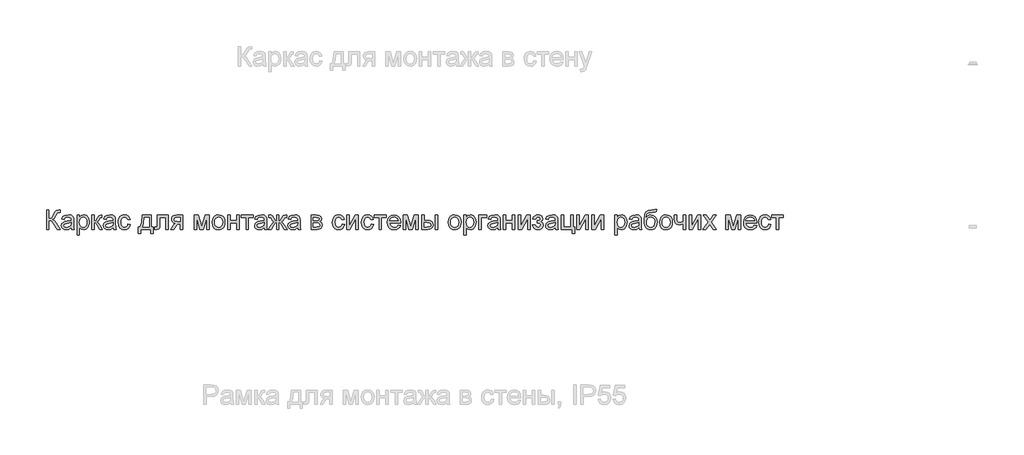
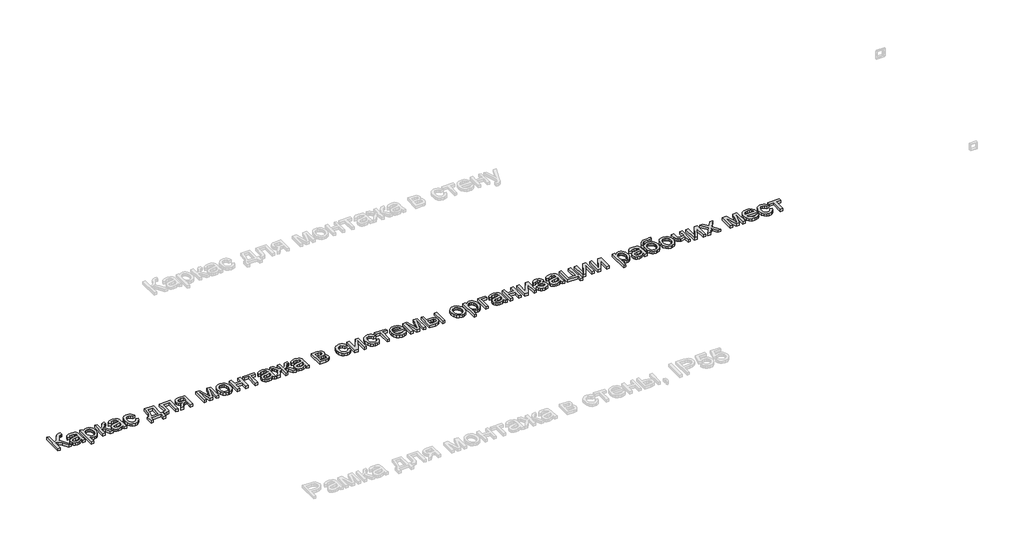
# One storey, part 45 of 48: 1 proxy.
"""IFC4 building model written with IfcOpenShell, lengths in millimetres."""

from ifc_helpers import new_model, si_unit, origin, origin_with_axes, place, context, project, spatial, polyline, outline, extrude, element, save

model = new_model("IFC4")

# Units and contexts
model_context = context("Model", 3, world=origin())
ifc_project = project(units=[si_unit("LENGTHUNIT", "METRE", prefix="MILLI")], contexts=[model_context])

# Site, building, storey
site = spatial("IfcSite", under=ifc_project)
building = spatial("IfcBuilding", under=site)
storey = spatial("IfcBuildingStorey", under=building, Name="Этаж 01", Elevation=0.0)

# Proxy
placement = place(None, origin())
element("IfcBuildingElementProxy", 1, Name="150 мм Arial", ObjectType="150 мм Arial", at=placement, inside=storey, context=model_context, shape_type="SweptSolid", body=[
    extrude(outline(polyline([(70154.3970771, 1543.5795669), (70173.2326353, 1543.5795669), (70173.2326353, 1477.6551134), (70185.9843449, 1478.9013136), (70194.2938795, 1482.6399144), (70208.9907652, 1507.8582252), (70219.3834316, 1528.9194694), (70231.1556554, 1539.348924), (70247.9862567, 1543.5795669), (70260.3470917, 1543.3588377), (70260.3470917, 1524.5232796), (70256.1900252, 1524.6336442), (70252.0329587, 1524.7440088), (70237.3176788, 1520.2190602), (70226.1340662, 1500.8316791), (70212.7983439, 1477.213655), (70199.7937153, 1469.4145567), (70214.3342512, 1460.8980885), (70228.672452, 1443.1477822), (70260.3470917, 1392.8951017), (70238.4949012, 1392.8951017), (70211.713092, 1435.3486839), (70192.8591397, 1457.5135742), (70184.154132, 1462.0247271), (70173.2326353, 1463.5284448), (70173.2326353, 1392.8951017), (70154.3970771, 1392.8951017), (70154.3970771, 1543.5795669)])), origin_with_axes(), (0.0, 0.0, 1.0), 20.0),
    extrude(outline(polyline([(70345.1071034, 1407.0217703), (70326.8417624, 1394.2562651), (70306.6634349, 1390.5406569), (70290.9226841, 1392.77554), (70279.3114086, 1399.4801894), (70272.1515053, 1409.6613236), (70269.7648708, 1422.3256613), (70273.3701144, 1437.2248821), (70282.8430758, 1448.0406128), (70296.0316453, 1454.2210303), (70312.3288177, 1457.0537217), (70344.9967388, 1463.5284448), (70345.1071034, 1467.7222995), (70343.8103194, 1476.1284031), (70339.9199673, 1481.6282389), (70331.2195581, 1485.7117291), (70319.0978464, 1487.0728925), (70300.041559, 1483.4492548), (70290.9548737, 1470.5917791), (70272.1193156, 1472.9462238), (70280.2679018, 1491.3403236), (70296.6754388, 1502.1192661), (70321.5258675, 1505.9084506), (70344.3529453, 1502.5607245), (70357.2472093, 1494.1546209), (70363.0229566, 1481.3707215), (70363.9426616, 1464.8896082), (70363.9426616, 1441.4555251), (70364.8991548, 1408.7324216), (70368.6515511, 1392.8951017), (70349.815993, 1392.8951017), (70345.1071034, 1407.0217703)]), holes=[polyline([(70345.1071034, 1444.6928866), (70314.7200506, 1438.9171393), (70298.5148487, 1435.8637187), (70291.1756029, 1430.8973118), (70288.600429, 1423.6500365), (70294.2106294, 1413.4597052), (70310.6733487, 1409.3762151), (70329.729636, 1413.8827695), (70342.0168947, 1424.7904707), (70344.9967388, 1439.3585977), (70345.1071034, 1444.6928866)])]), origin_with_axes(), (0.0, 0.0, 1.0), 20.0),
    extrude(outline(polyline([(70389.841554, 1350.5150959), (70389.841554, 1503.5540058), (70408.6771122, 1503.5540058), (70408.6771122, 1485.0863297), (70421.7001348, 1500.7029204), (70439.2848942, 1505.9084506), (70452.0228083, 1504.0874347), (70463.1604357, 1498.6243871), (70472.2287269, 1489.8504015), (70478.7586323, 1478.0965718), (70484.0193448, 1449.0706824), (70482.5340213, 1432.9620495), (70478.0780506, 1418.5548709), (70470.7939871, 1406.5803119), (70460.824385, 1397.7695381), (70449.2131095, 1392.3478772), (70437.0040258, 1390.5406569), (70420.6148829, 1395.3783052), (70408.6771122, 1407.6103815), (70408.6771122, 1350.5150959), (70389.841554, 1350.5150959)]), holes=[polyline([(70408.6771122, 1447.341637), (70410.7142588, 1430.4558534), (70416.8256984, 1418.6468414), (70425.8434058, 1411.6938717), (70436.5993556, 1409.3762151), (70447.5300494, 1411.7766451), (70456.7776831, 1418.9779352), (70463.0822608, 1431.2192085), (70465.1837867, 1448.7395886), (70463.1328445, 1465.5334016), (70456.9800182, 1477.5079606), (70447.9761063, 1484.6816595), (70437.3719078, 1487.0728925), (70426.7263226, 1484.5299082), (70417.3775214, 1476.9009553), (70410.8522145, 1464.4251571), (70408.6771122, 1447.341637)])]), origin_with_axes(), (0.0, 0.0, 1.0), 20.0),
    extrude(outline(polyline([(70505.2093477, 1503.5540058), (70524.0449059, 1503.5540058), (70524.0449059, 1456.4651105), (70536.6632583, 1459.8496248), (70547.0007424, 1479.5680998), (70555.590787, 1496.582642), (70563.1691561, 1502.1192661), (70576.9463368, 1503.5540058), (70580.5515803, 1503.5540058), (70580.5515803, 1484.6080831), (70575.4748088, 1484.7184477), (70566.2777589, 1482.7318849), (70559.8030358, 1470.3342617), (70552.2062726, 1456.924963), (70541.5560889, 1450.3582693), (70553.4386773, 1443.0282206), (70565.1005366, 1427.5863738), (70585.2604699, 1392.8951017), (70563.8497378, 1392.8951017), (70544.0944746, 1426.8506099), (70534.1616608, 1441.2164018), (70524.0449059, 1444.6928866), (70524.0449059, 1392.8951017), (70505.2093477, 1392.8951017), (70505.2093477, 1503.5540058)])), origin_with_axes(), (0.0, 0.0, 1.0), 20.0),
    extrude(outline(polyline([(70667.6660368, 1407.0217703), (70649.4006957, 1394.2562651), (70629.2223683, 1390.5406569), (70613.4816174, 1392.77554), (70601.870342, 1399.4801894), (70594.7104386, 1409.6613236), (70592.3238042, 1422.3256613), (70595.9290477, 1437.2248821), (70605.4020091, 1448.0406128), (70618.5905786, 1454.2210303), (70634.887751, 1457.0537217), (70667.5556722, 1463.5284448), (70667.6660368, 1467.7222995), (70666.3692528, 1476.1284031), (70662.4789007, 1481.6282389), (70653.7784915, 1485.7117291), (70641.6567797, 1487.0728925), (70622.6004924, 1483.4492548), (70613.5138071, 1470.5917791), (70594.678249, 1472.9462238), (70602.8268352, 1491.3403236), (70619.2343721, 1502.1192661), (70644.0848009, 1505.9084506), (70666.9118787, 1502.5607245), (70679.8061426, 1494.1546209), (70685.58189, 1481.3707215), (70686.501595, 1464.8896082), (70686.501595, 1441.4555251), (70687.4580881, 1408.7324216), (70691.2104845, 1392.8951017), (70672.3749263, 1392.8951017), (70667.6660368, 1407.0217703)]), holes=[polyline([(70667.6660368, 1444.6928866), (70637.278984, 1438.9171393), (70621.0737821, 1435.8637187), (70613.7345363, 1430.8973118), (70611.1593623, 1423.6500365), (70616.7695628, 1413.4597052), (70633.2322821, 1409.3762151), (70652.2885694, 1413.8827695), (70664.575828, 1424.7904707), (70667.5556722, 1439.3585977), (70667.6660368, 1444.6928866)])]), origin_with_axes(), (0.0, 0.0, 1.0), 20.0),
    extrude(outline(polyline([(70783.0338305, 1432.9206628), (70801.8693886, 1430.566218), (70796.6178732, 1413.8137916), (70786.7494386, 1401.1540525), (70773.1929871, 1393.1940058), (70756.8774206, 1390.5406569), (70736.8416475, 1394.2424695), (70721.174473, 1405.3479072), (70711.0623167, 1423.3695265), (70707.6915979, 1447.8198836), (70709.1309362, 1464.581507), (70713.4489511, 1479.1082473), (70720.7146205, 1490.8390844), (70730.9969223, 1499.2129983), (70743.2979765, 1504.2345875), (70756.6199032, 1505.9084506), (70772.5353981, 1503.6091881), (70785.2595166, 1496.7114007), (70794.3875886, 1485.5829704), (70799.5149439, 1470.5917791), (70780.6793857, 1468.2373343), (70771.9421883, 1482.3456088), (70756.767056, 1487.0728925), (70744.5947605, 1484.7460388), (70734.9332596, 1477.765478), (70728.6286819, 1465.7541308), (70726.527156, 1448.3349184), (70728.5826967, 1430.6811811), (70734.7493186, 1418.6284473), (70744.2360756, 1411.6892731), (70756.2520212, 1409.3762151), (70766.0054926, 1410.8201519), (70774.0023275, 1415.1519624), (70779.8194616, 1422.4820112), (70783.0338305, 1432.9206628)])), origin_with_axes(), (0.0, 0.0, 1.0), 20.0),
    extrude(outline(polyline([(70893.6927346, 1503.5540058), (70964.3260777, 1503.5540058), (70964.3260777, 1411.7306599), (70978.4527463, 1411.7306599), (70978.4527463, 1362.2873197), (70959.6171882, 1362.2873197), (70959.6171882, 1392.8951017), (70881.9205108, 1392.8951017), (70881.9205108, 1362.2873197), (70863.0849526, 1362.2873197), (70863.0849526, 1411.7306599), (70874.8571765, 1411.7306599), (70883.4150314, 1427.1954992), (70889.4069094, 1447.6543367), (70893.6927346, 1503.5540058)]), holes=[polyline([(70910.173848, 1484.7184477), (70905.7592641, 1441.805013), (70896.0471794, 1411.7306599), (70945.4905196, 1411.7306599), (70945.4905196, 1484.7184477), (70910.173848, 1484.7184477)])]), origin_with_axes(), (0.0, 0.0, 1.0), 20.0),
    extrude(outline(polyline([(71009.0605283, 1503.5540058), (71093.82054, 1503.5540058), (71093.82054, 1393.0054663), (71074.9849819, 1393.0054663), (71074.9849819, 1484.7184477), (71027.8960865, 1484.7184477), (71027.8960865, 1431.9273814), (71026.6268936, 1407.5735933), (71019.6555298, 1397.2912915), (71003.1744164, 1392.8951017), (70987.8705254, 1393.8515949), (70987.8705254, 1411.7306599), (70996.2950231, 1411.7306599), (71004.8114913, 1412.8894881), (71008.2143997, 1416.5683081), (71009.0605283, 1432.9942392), (71009.0605283, 1503.5540058)])), origin_with_axes(), (0.0, 0.0, 1.0), 20.0),
    extrude(outline(polyline([(71206.8338889, 1503.5540058), (71206.8338889, 1392.8951017), (71187.9983308, 1392.8951017), (71187.9983308, 1435.2751075), (71177.7344231, 1435.2751075), (71163.7549073, 1432.8838746), (71150.6215201, 1416.8074314), (71135.6119347, 1392.8951017), (71113.8333206, 1392.8951017), (71132.7424551, 1423.1350017), (71141.0933764, 1433.9875206), (71148.7821101, 1438.8067747), (71135.9062403, 1442.7523091), (71126.8563432, 1450.2479047), (71121.5036602, 1460.2175068), (71119.7194325, 1471.5850605), (71122.1566507, 1484.4793244), (71129.4683054, 1494.6880498), (71141.396879, 1501.3375168), (71157.6848544, 1503.5540058), (71206.8338889, 1503.5540058)]), holes=[polyline([(71187.9983308, 1484.7184477), (71163.1662961, 1484.7184477), (71150.3410101, 1483.6285973), (71143.0615451, 1480.3590461), (71138.5549906, 1470.1503207), (71140.2150581, 1462.9720233), (71145.1952606, 1457.9918207), (71168.7213142, 1454.1106657), (71187.9983308, 1454.1106657), (71187.9983308, 1484.7184477)])]), origin_with_axes(), (0.0, 0.0, 1.0), 20.0),
    extrude(outline(polyline([(71293.9483454, 1503.5540058), (71326.3587492, 1503.5540058), (71351.3379366, 1414.9680214), (71378.2668987, 1503.5540058), (71409.3161391, 1503.5540058), (71409.3161391, 1392.8951017), (71390.4805809, 1392.8951017), (71390.4805809, 1481.9961209), (71363.4044661, 1392.8951017), (71338.682796, 1392.8951017), (71312.7839035, 1486.2635521), (71312.7839035, 1392.8951017), (71293.9483454, 1392.8951017), (71293.9483454, 1503.5540058)])), origin_with_axes(), (0.0, 0.0, 1.0), 20.0),
    extrude(outline(polyline([(71432.8605868, 1448.2245538), (71436.9348799, 1474.9051955), (71449.1577592, 1493.6579802), (71464.2593151, 1502.845833), (71482.3407151, 1505.9084506), (71502.1281679, 1502.1790469), (71517.9332982, 1490.9908357), (71528.2937748, 1473.2267339), (71531.7472671, 1449.7696582), (71530.2205568, 1430.740962), (71525.640426, 1416.2556084), (71518.1402318, 1405.4076881), (71507.8533315, 1397.2912915), (71495.6350507, 1392.2283156), (71482.3407151, 1390.5406569), (71462.314139, 1394.2562651), (71446.5274029, 1405.4030895), (71436.2772908, 1423.5396719), (71432.8605868, 1448.2245538)]), holes=[polyline([(71451.6961449, 1448.261342), (71453.8758457, 1431.21461), (71460.4149482, 1419.0699057), (71470.2557916, 1411.7996377), (71482.3407151, 1409.3762151), (71494.3704564, 1411.8134333), (71504.1929056, 1419.125088), (71510.7320081, 1431.4307407), (71512.9117089, 1448.8499532), (71510.7182125, 1465.4000444), (71504.1377233, 1477.3792019), (71494.3014785, 1484.6494698), (71482.3407151, 1487.0728925), (71470.2557916, 1484.6586669), (71460.4149482, 1477.4159901), (71453.8758457, 1465.2988769), (71451.6961449, 1448.261342)])]), origin_with_axes(), (0.0, 0.0, 1.0), 20.0),
    extrude(outline(polyline([(71552.93727, 1503.5540058), (71571.7728282, 1503.5540058), (71571.7728282, 1461.174), (71621.2161683, 1461.174), (71621.2161683, 1503.5540058), (71640.0517265, 1503.5540058), (71640.0517265, 1392.8951017), (71621.2161683, 1392.8951017), (71621.2161683, 1442.3384418), (71571.7728282, 1442.3384418), (71571.7728282, 1392.8951017), (71552.93727, 1392.8951017), (71552.93727, 1503.5540058)])), origin_with_axes(), (0.0, 0.0, 1.0), 20.0),
    extrude(outline(polyline([(71658.8872846, 1503.5540058), (71748.3561858, 1503.5540058), (71748.3561858, 1484.7184477), (71713.0395143, 1484.7184477), (71713.0395143, 1392.8951017), (71694.2039561, 1392.8951017), (71694.2039561, 1484.7184477), (71658.8872846, 1484.7184477), (71658.8872846, 1503.5540058)])), origin_with_axes(), (0.0, 0.0, 1.0), 20.0),
    extrude(outline(polyline([(71835.4706423, 1407.0217703), (71817.2053012, 1394.2562651), (71797.0269738, 1390.5406569), (71781.2862229, 1392.77554), (71769.6749475, 1399.4801894), (71762.5150441, 1409.6613236), (71760.1284097, 1422.3256613), (71763.7336532, 1437.2248821), (71773.2066146, 1448.0406128), (71786.3951841, 1454.2210303), (71802.6923565, 1457.0537217), (71835.3602777, 1463.5284448), (71835.4706423, 1467.7222995), (71834.1738583, 1476.1284031), (71830.2835062, 1481.6282389), (71821.583097, 1485.7117291), (71809.4613852, 1487.0728925), (71790.4050979, 1483.4492548), (71781.3184126, 1470.5917791), (71762.4828545, 1472.9462238), (71770.6314406, 1491.3403236), (71787.0389776, 1502.1192661), (71811.8894064, 1505.9084506), (71834.7164842, 1502.5607245), (71847.6107481, 1494.1546209), (71853.3864955, 1481.3707215), (71854.3062004, 1464.8896082), (71854.3062004, 1441.4555251), (71855.2626936, 1408.7324216), (71859.01509, 1392.8951017), (71840.1795318, 1392.8951017), (71835.4706423, 1407.0217703)]), holes=[polyline([(71835.4706423, 1444.6928866), (71805.0835895, 1438.9171393), (71788.8783876, 1435.8637187), (71781.5391418, 1430.8973118), (71778.9639678, 1423.6500365), (71784.5741683, 1413.4597052), (71801.0368875, 1409.3762151), (71820.0931749, 1413.8827695), (71832.3804335, 1424.7904707), (71835.3602777, 1439.3585977), (71835.4706423, 1444.6928866)])]), origin_with_axes(), (0.0, 0.0, 1.0), 20.0),
    extrude(outline(polyline([(71948.4839912, 1503.5540058), (71948.4839912, 1456.4651105), (71959.4652688, 1460.3462655), (71969.8579351, 1480.4878047), (71982.2555584, 1499.8016095), (71999.8771059, 1503.5540058), (72007.3451104, 1503.5540058), (72007.3451104, 1484.6080831), (72002.1579743, 1484.7184477), (71992.4458896, 1482.7686731), (71985.7136491, 1470.5549909), (71977.8961567, 1457.1640863), (71966.7309382, 1450.3582693), (71979.045788, 1443.0282206), (71991.0479381, 1427.5863738), (72012.054, 1392.8951017), (71990.4593269, 1392.8951017), (71969.7843587, 1427.1081272), (71959.2445396, 1441.3267664), (71948.4839912, 1444.6928866), (71948.4839912, 1392.8951017), (71929.6484331, 1392.8951017), (71929.6484331, 1444.6928866), (71918.9246729, 1441.4003428), (71908.3112773, 1427.1817036), (71887.6363092, 1392.8951017), (71866.0784243, 1392.8951017), (71887.0109098, 1427.5863738), (71899.1050304, 1443.0282206), (71911.4750625, 1450.3582693), (71899.6292623, 1457.863062), (71889.4757192, 1477.1768668), (71884.5093123, 1483.5412253), (71876.3791202, 1484.8288123), (71870.7873138, 1484.7184477), (71870.7873138, 1503.5540058), (71873.6200052, 1503.5540058), (71890.1379068, 1502.3767835), (71898.7095573, 1497.3735883), (71908.3112773, 1480.4878047), (71918.5935791, 1460.4750242), (71929.6484331, 1456.4651105), (71929.6484331, 1503.5540058), (71948.4839912, 1503.5540058)])), origin_with_axes(), (0.0, 0.0, 1.0), 20.0),
    extrude(outline(polyline([(72092.1051221, 1407.0217703), (72073.8397811, 1394.2562651), (72053.6614536, 1390.5406569), (72037.9207028, 1392.77554), (72026.3094273, 1399.4801894), (72019.149524, 1409.6613236), (72016.7628895, 1422.3256613), (72020.3681331, 1437.2248821), (72029.8410944, 1448.0406128), (72043.029664, 1454.2210303), (72059.3268364, 1457.0537217), (72091.9947575, 1463.5284448), (72092.1051221, 1467.7222995), (72090.8083381, 1476.1284031), (72086.917986, 1481.6282389), (72078.2175768, 1485.7117291), (72066.0958651, 1487.0728925), (72047.0395777, 1483.4492548), (72037.9528924, 1470.5917791), (72019.1173343, 1472.9462238), (72027.2659205, 1491.3403236), (72043.6734575, 1502.1192661), (72068.5238862, 1505.9084506), (72091.350964, 1502.5607245), (72104.245228, 1494.1546209), (72110.0209753, 1481.3707215), (72110.9406803, 1464.8896082), (72110.9406803, 1441.4555251), (72111.8971735, 1408.7324216), (72115.6495698, 1392.8951017), (72096.8140117, 1392.8951017), (72092.1051221, 1407.0217703)]), holes=[polyline([(72092.1051221, 1444.6928866), (72061.7180693, 1438.9171393), (72045.5128674, 1435.8637187), (72038.1736216, 1430.8973118), (72035.5984477, 1423.6500365), (72041.2086481, 1413.4597052), (72057.6713674, 1409.3762151), (72076.7276547, 1413.8827695), (72089.0149134, 1424.7904707), (72091.9947575, 1439.3585977), (72092.1051221, 1444.6928866)])]), origin_with_axes(), (0.0, 0.0, 1.0), 20.0),
    extrude(outline(polyline([(72195.700692, 1503.5540058), (72237.197781, 1503.5540058), (72259.9512824, 1501.0340142), (72272.7535759, 1491.8001761), (72278.1062589, 1475.7053388), (72274.8688973, 1462.6271339), (72265.1200245, 1453.3013253), (72277.7751651, 1443.0925999), (72282.8151484, 1425.3422937), (72279.6237721, 1410.9856988), (72272.036206, 1400.878141), (72260.0248588, 1394.8908615), (72243.5621395, 1392.8951017), (72195.700692, 1392.8951017), (72195.700692, 1503.5540058)]), holes=[polyline([(72214.5362501, 1461.174), (72233.1510791, 1461.174), (72248.5101524, 1462.1304932), (72255.9781569, 1465.9564659), (72259.2707007, 1472.8726474), (72257.8267639, 1478.4920449), (72253.4949534, 1482.1064855), (72233.7396903, 1484.7184477), (72214.5362501, 1484.7184477), (72214.5362501, 1461.174)]), polyline([(72214.5362501, 1411.7306599), (72237.6392394, 1411.7306599), (72258.1302666, 1415.1335683), (72262.3701065, 1419.77348), (72263.9795903, 1426.8873981), (72260.7606228, 1435.9556892), (72252.3729133, 1441.2347959), (72235.7998294, 1442.3384418), (72214.5362501, 1442.3384418), (72214.5362501, 1411.7306599)])]), origin_with_axes(), (0.0, 0.0, 1.0), 20.0),
    extrude(outline(polyline([(72435.8540584, 1432.9206628), (72454.6896166, 1430.566218), (72449.4381011, 1413.8137916), (72439.5696666, 1401.1540525), (72426.0132151, 1393.1940058), (72409.6976486, 1390.5406569), (72389.6618754, 1394.2424695), (72373.9947009, 1405.3479072), (72363.8825446, 1423.3695265), (72360.5118258, 1447.8198836), (72361.9511641, 1464.581507), (72366.269179, 1479.1082473), (72373.5348484, 1490.8390844), (72383.8171502, 1499.2129983), (72396.1182044, 1504.2345875), (72409.4401312, 1505.9084506), (72425.355626, 1503.6091881), (72438.0797445, 1496.7114007), (72447.2078165, 1485.5829704), (72452.3351718, 1470.5917791), (72433.4996137, 1468.2373343), (72424.7624163, 1482.3456088), (72409.587284, 1487.0728925), (72397.4149885, 1484.7460388), (72387.7534876, 1477.765478), (72381.4489099, 1465.7541308), (72379.347384, 1448.3349184), (72381.4029246, 1430.6811811), (72387.5695466, 1418.6284473), (72397.0563035, 1411.6892731), (72409.0722492, 1409.3762151), (72418.8257206, 1410.8201519), (72426.8225554, 1415.1519624), (72432.6396895, 1422.4820112), (72435.8540584, 1432.9206628)])), origin_with_axes(), (0.0, 0.0, 1.0), 20.0),
    extrude(outline(polyline([(72471.17073, 1503.5540058), (72490.0062881, 1503.5540058), (72490.0062881, 1419.1618762), (72536.2858431, 1503.5540058), (72560.6396312, 1503.5540058), (72560.6396312, 1392.8951017), (72541.804073, 1392.8951017), (72541.804073, 1476.7721966), (72495.8188236, 1392.8951017), (72471.17073, 1392.8951017), (72471.17073, 1503.5540058)])), origin_with_axes(), (0.0, 0.0, 1.0), 20.0),
    extrude(outline(polyline([(72659.5263115, 1432.9206628), (72678.3618696, 1430.566218), (72673.1103542, 1413.8137916), (72663.2419196, 1401.1540525), (72649.6854681, 1393.1940058), (72633.3699016, 1390.5406569), (72613.3341285, 1394.2424695), (72597.666954, 1405.3479072), (72587.5547977, 1423.3695265), (72584.1840789, 1447.8198836), (72585.6234172, 1464.581507), (72589.9414321, 1479.1082473), (72597.2071015, 1490.8390844), (72607.4894033, 1499.2129983), (72619.7904575, 1504.2345875), (72633.1123842, 1505.9084506), (72649.0278791, 1503.6091881), (72661.7519976, 1496.7114007), (72670.8800696, 1485.5829704), (72676.0074249, 1470.5917791), (72657.1718667, 1468.2373343), (72648.4346693, 1482.3456088), (72633.259537, 1487.0728925), (72621.0872415, 1484.7460388), (72611.4257406, 1477.765478), (72605.1211629, 1465.7541308), (72603.019637, 1448.3349184), (72605.0751777, 1430.6811811), (72611.2417996, 1418.6284473), (72620.7285566, 1411.6892731), (72632.7445022, 1409.3762151), (72642.4979736, 1410.8201519), (72650.4948085, 1415.1519624), (72656.3119426, 1422.4820112), (72659.5263115, 1432.9206628)])), origin_with_axes(), (0.0, 0.0, 1.0), 20.0),
    extrude(outline(polyline([(72685.425204, 1503.5540058), (72774.8941052, 1503.5540058), (72774.8941052, 1484.7184477), (72739.5774336, 1484.7184477), (72739.5774336, 1392.8951017), (72720.7418755, 1392.8951017), (72720.7418755, 1484.7184477), (72685.425204, 1484.7184477), (72685.425204, 1503.5540058)])), origin_with_axes(), (0.0, 0.0, 1.0), 20.0),
    extrude(outline(polyline([(72868.8511667, 1425.8573285), (72887.3188429, 1423.5028837), (72880.6647773, 1409.5877472), (72870.0467832, 1399.1858838), (72855.7039839, 1392.7019637), (72837.8755028, 1390.5406569), (72815.7749919, 1394.2700607), (72798.7696467, 1405.4582718), (72787.9263249, 1423.3787235), (72784.3118843, 1447.3048488), (72787.9631131, 1472.0357159), (72798.9167995, 1490.5309832), (72815.6922184, 1502.0640838), (72836.808645, 1505.9084506), (72857.2674824, 1502.0732808), (72873.6152386, 1490.5677714), (72884.3344002, 1472.1092923), (72887.9074541, 1447.4152134), (72887.7970895, 1442.3384418), (72803.1474424, 1442.3384418), (72806.4077966, 1428.2393644), (72813.9815672, 1417.8742892), (72824.9122609, 1411.5007336), (72838.2433847, 1409.3762151), (72856.7110609, 1413.3125524), (72868.8511667, 1425.8573285)]), holes=[polyline([(72803.1474424, 1461.174), (72869.0718959, 1461.174), (72866.5243131, 1471.125208), (72861.530315, 1478.2437246), (72850.5490375, 1484.8656005), (72836.7350686, 1487.0728925), (72824.0385412, 1485.3116574), (72813.5401088, 1480.0279523), (72806.2422497, 1471.7919941), (72803.1474424, 1461.174)])]), origin_with_axes(), (0.0, 0.0, 1.0), 20.0),
    extrude(outline(polyline([(72906.7430123, 1503.5540058), (72939.153416, 1503.5540058), (72964.1326035, 1414.9680214), (72991.0615655, 1503.5540058), (73022.1108059, 1503.5540058), (73022.1108059, 1392.8951017), (73003.2752478, 1392.8951017), (73003.2752478, 1481.9961209), (72976.1991329, 1392.8951017), (72951.4774629, 1392.8951017), (72925.5785704, 1486.2635521), (72925.5785704, 1392.8951017), (72906.7430123, 1392.8951017), (72906.7430123, 1503.5540058)])), origin_with_axes(), (0.0, 0.0, 1.0), 20.0),
    extrude(outline(polyline([(73153.959713, 1503.5540058), (73172.7952712, 1503.5540058), (73172.7952712, 1392.8951017), (73153.959713, 1392.8951017), (73153.959713, 1503.5540058)])), origin_with_axes(), (0.0, 0.0, 1.0), 20.0),
    extrude(outline(polyline([(73050.3641432, 1503.5540058), (73069.1997013, 1503.5540058), (73069.1997013, 1463.5284448), (73092.4866316, 1463.5284448), (73112.6143753, 1461.1694015), (73127.5273917, 1454.0922716), (73136.7566312, 1442.8672722), (73139.8330444, 1428.0646204), (73137.2532719, 1414.5863438), (73129.5139544, 1403.2141917), (73116.1092542, 1395.4748742), (73096.5333336, 1392.8951017), (73050.3641432, 1392.8951017), (73050.3641432, 1503.5540058)]), holes=[polyline([(73069.1997013, 1411.7306599), (73088.5502943, 1411.7306599), (73113.5294817, 1415.6853913), (73119.1304851, 1420.7483673), (73120.9974862, 1428.0278322), (73115.4608622, 1439.6161151), (73106.5811106, 1443.4236937), (73091.0151036, 1444.6928866), (73069.1997013, 1444.6928866), (73069.1997013, 1411.7306599)])]), origin_with_axes(), (0.0, 0.0, 1.0), 20.0),
    extrude(outline(polyline([(73255.2008381, 1448.2245538), (73259.2751312, 1474.9051955), (73271.4980105, 1493.6579802), (73286.5995664, 1502.845833), (73304.6809664, 1505.9084506), (73324.4684192, 1502.1790469), (73340.2735495, 1490.9908357), (73350.6340262, 1473.2267339), (73354.0875184, 1449.7696582), (73352.5608081, 1430.740962), (73347.9806773, 1416.2556084), (73340.4804831, 1405.4076881), (73330.1935828, 1397.2912915), (73317.975302, 1392.2283156), (73304.6809664, 1390.5406569), (73284.6543903, 1394.2562651), (73268.8676542, 1405.4030895), (73258.6175421, 1423.5396719), (73255.2008381, 1448.2245538)]), holes=[polyline([(73274.0363962, 1448.261342), (73276.2160971, 1431.21461), (73282.7551995, 1419.0699057), (73292.5960429, 1411.7996377), (73304.6809664, 1409.3762151), (73316.7107077, 1411.8134333), (73326.5331569, 1419.125088), (73333.0722594, 1431.4307407), (73335.2519602, 1448.8499532), (73333.0584638, 1465.4000444), (73326.4779746, 1477.3792019), (73316.6417298, 1484.6494698), (73304.6809664, 1487.0728925), (73292.5960429, 1484.6586669), (73282.7551995, 1477.4159901), (73276.2160971, 1465.2988769), (73274.0363962, 1448.261342)])]), origin_with_axes(), (0.0, 0.0, 1.0), 20.0),
    extrude(outline(polyline([(73375.2775213, 1350.5150959), (73375.2775213, 1503.5540058), (73394.1130795, 1503.5540058), (73394.1130795, 1485.0863297), (73407.1361021, 1500.7029204), (73424.7208615, 1505.9084506), (73437.4587755, 1504.0874347), (73448.5964029, 1498.6243871), (73457.6646941, 1489.8504015), (73464.1945995, 1478.0965718), (73469.4553121, 1449.0706824), (73467.9699885, 1432.9620495), (73463.5140179, 1418.5548709), (73456.2299543, 1406.5803119), (73446.2603523, 1397.7695381), (73434.6490768, 1392.3478772), (73422.4399931, 1390.5406569), (73406.0508502, 1395.3783052), (73394.1130795, 1407.6103815), (73394.1130795, 1350.5150959), (73375.2775213, 1350.5150959)]), holes=[polyline([(73394.1130795, 1447.341637), (73396.150226, 1430.4558534), (73402.2616657, 1418.6468414), (73411.2793731, 1411.6938717), (73422.0353229, 1409.3762151), (73432.9660167, 1411.7766451), (73442.2136503, 1418.9779352), (73448.518228, 1431.2192085), (73450.6197539, 1448.7395886), (73448.5688118, 1465.5334016), (73442.4159854, 1477.5079606), (73433.4120736, 1484.6816595), (73422.8078751, 1487.0728925), (73412.1622898, 1484.5299082), (73402.8134886, 1476.9009553), (73396.2881818, 1464.4251571), (73394.1130795, 1447.341637)])]), origin_with_axes(), (0.0, 0.0, 1.0), 20.0),
    extrude(outline(polyline([(73490.645315, 1503.5540058), (73551.860879, 1503.5540058), (73551.860879, 1484.7184477), (73509.4808731, 1484.7184477), (73509.4808731, 1392.8951017), (73490.645315, 1392.8951017), (73490.645315, 1503.5540058)])), origin_with_axes(), (0.0, 0.0, 1.0), 20.0),
    extrude(outline(polyline([(73636.6208907, 1407.0217703), (73618.3555496, 1394.2562651), (73598.1772222, 1390.5406569), (73582.4364713, 1392.77554), (73570.8251958, 1399.4801894), (73563.6652925, 1409.6613236), (73561.2786581, 1422.3256613), (73564.8839016, 1437.2248821), (73574.356863, 1448.0406128), (73587.5454325, 1454.2210303), (73603.8426049, 1457.0537217), (73636.5105261, 1463.5284448), (73636.6208907, 1467.7222995), (73635.3241066, 1476.1284031), (73631.4337545, 1481.6282389), (73622.7333454, 1485.7117291), (73610.6116336, 1487.0728925), (73591.5553463, 1483.4492548), (73582.468661, 1470.5917791), (73563.6331028, 1472.9462238), (73571.781689, 1491.3403236), (73588.189226, 1502.1192661), (73613.0396548, 1505.9084506), (73635.8667326, 1502.5607245), (73648.7609965, 1494.1546209), (73654.5367438, 1481.3707215), (73655.4564488, 1464.8896082), (73655.4564488, 1441.4555251), (73656.412942, 1408.7324216), (73660.1653384, 1392.8951017), (73641.3297802, 1392.8951017), (73636.6208907, 1407.0217703)]), holes=[polyline([(73636.6208907, 1444.6928866), (73606.2338379, 1438.9171393), (73590.028636, 1435.8637187), (73582.6893902, 1430.8973118), (73580.1142162, 1423.6500365), (73585.7244166, 1413.4597052), (73602.1871359, 1409.3762151), (73621.2434233, 1413.8827695), (73633.5306819, 1424.7904707), (73636.5105261, 1439.3585977), (73636.6208907, 1444.6928866)])]), origin_with_axes(), (0.0, 0.0, 1.0), 20.0),
    extrude(outline(polyline([(73681.3553413, 1503.5540058), (73700.1908994, 1503.5540058), (73700.1908994, 1461.174), (73749.6342396, 1461.174), (73749.6342396, 1503.5540058), (73768.4697978, 1503.5540058), (73768.4697978, 1392.8951017), (73749.6342396, 1392.8951017), (73749.6342396, 1442.3384418), (73700.1908994, 1442.3384418), (73700.1908994, 1392.8951017), (73681.3553413, 1392.8951017), (73681.3553413, 1503.5540058)])), origin_with_axes(), (0.0, 0.0, 1.0), 20.0),
    extrude(outline(polyline([(73796.723135, 1503.5540058), (73815.5586931, 1503.5540058), (73815.5586931, 1419.1618762), (73861.8382481, 1503.5540058), (73886.1920362, 1503.5540058), (73886.1920362, 1392.8951017), (73867.3564781, 1392.8951017), (73867.3564781, 1476.7721966), (73821.3712287, 1392.8951017), (73796.723135, 1392.8951017), (73796.723135, 1503.5540058)])), origin_with_axes(), (0.0, 0.0, 1.0), 20.0),
    extrude(outline(polyline([(73940.3442659, 1442.3384418), (73940.3442659, 1461.174), (73955.2066985, 1461.909764), (73962.7114912, 1465.8277072), (73966.2431584, 1474.0130816), (73961.5158747, 1483.5228312), (73949.3205866, 1487.0728925), (73936.7206282, 1483.5412253), (73928.5720421, 1472.9462238), (73907.3820391, 1475.3006686), (73913.0014366, 1488.6915732), (73921.5454959, 1498.2565051), (73933.0142171, 1503.9954642), (73947.4076002, 1505.9084506), (73963.1529496, 1503.5769985), (73975.0723262, 1496.582642), (73982.5771189, 1486.350924), (73985.0787165, 1474.3073872), (73981.5194582, 1462.6087398), (73970.8416833, 1453.5588427), (73983.2944888, 1441.8234071), (73987.4331613, 1424.9376235), (73984.8074035, 1411.0730708), (73976.9301303, 1400.0871947), (73964.3347705, 1392.9272914), (73947.554753, 1390.5406569), (73931.1426175, 1392.7479489), (73918.5840459, 1399.3698248), (73909.8790382, 1410.4062847), (73905.0275944, 1425.8573285), (73926.2175973, 1428.2117732), (73934.7156714, 1414.3058338), (73949.3573748, 1409.3762151), (73963.1161614, 1414.1034987), (73968.5976031, 1426.1884223), (73965.1946947, 1436.0844479), (73957.9474194, 1441.3819487), (73944.0230859, 1442.4488064), (73940.3442659, 1442.3384418)])), origin_with_axes(), (0.0, 0.0, 1.0), 20.0),
    extrude(outline(polyline([(74081.610952, 1407.0217703), (74063.345611, 1394.2562651), (74043.1672836, 1390.5406569), (74027.4265327, 1392.77554), (74015.8152572, 1399.4801894), (74008.6553539, 1409.6613236), (74006.2687194, 1422.3256613), (74009.873963, 1437.2248821), (74019.3469244, 1448.0406128), (74032.5354939, 1454.2210303), (74048.8326663, 1457.0537217), (74081.5005874, 1463.5284448), (74081.610952, 1467.7222995), (74080.314168, 1476.1284031), (74076.4238159, 1481.6282389), (74067.7234067, 1485.7117291), (74055.601695, 1487.0728925), (74036.5454076, 1483.4492548), (74027.4587224, 1470.5917791), (74008.6231642, 1472.9462238), (74016.7717504, 1491.3403236), (74033.1792874, 1502.1192661), (74058.0297162, 1505.9084506), (74080.856794, 1502.5607245), (74093.7510579, 1494.1546209), (74099.5268052, 1481.3707215), (74100.4465102, 1464.8896082), (74100.4465102, 1441.4555251), (74101.4030034, 1408.7324216), (74105.1553997, 1392.8951017), (74086.3198416, 1392.8951017), (74081.610952, 1407.0217703)]), holes=[polyline([(74081.610952, 1444.6928866), (74051.2238992, 1438.9171393), (74035.0186974, 1435.8637187), (74027.6794516, 1430.8973118), (74025.1042776, 1423.6500365), (74030.714478, 1413.4597052), (74047.1771973, 1409.3762151), (74066.2334846, 1413.8827695), (74078.5207433, 1424.7904707), (74081.5005874, 1439.3585977), (74081.610952, 1444.6928866)])]), origin_with_axes(), (0.0, 0.0, 1.0), 20.0),
    extrude(outline(polyline([(74126.3454027, 1503.5540058), (74145.1809608, 1503.5540058), (74145.1809608, 1411.7306599), (74199.3331905, 1411.7306599), (74199.3331905, 1503.5540058), (74218.1687487, 1503.5540058), (74218.1687487, 1411.7306599), (74229.9409725, 1411.7306599), (74229.9409725, 1362.2873197), (74211.1054143, 1362.2873197), (74211.1054143, 1392.8951017), (74126.3454027, 1392.8951017), (74126.3454027, 1503.5540058)])), origin_with_axes(), (0.0, 0.0, 1.0), 20.0),
    extrude(outline(polyline([(74246.4220859, 1503.5540058), (74265.257644, 1503.5540058), (74265.257644, 1419.1618762), (74311.537199, 1503.5540058), (74335.8909871, 1503.5540058), (74335.8909871, 1392.8951017), (74317.055429, 1392.8951017), (74317.055429, 1476.7721966), (74271.0701796, 1392.8951017), (74246.4220859, 1392.8951017), (74246.4220859, 1503.5540058)])), origin_with_axes(), (0.0, 0.0, 1.0), 20.0),
    extrude(outline(polyline([(74364.1443243, 1503.5540058), (74382.9798825, 1503.5540058), (74382.9798825, 1419.1618762), (74429.2594375, 1503.5540058), (74453.6132256, 1503.5540058), (74453.6132256, 1392.8951017), (74434.7776674, 1392.8951017), (74434.7776674, 1476.7721966), (74388.792418, 1392.8951017), (74364.1443243, 1392.8951017), (74364.1443243, 1503.5540058)])), origin_with_axes(), (0.0, 0.0, 1.0), 20.0),
    extrude(outline(polyline([(74540.727682, 1350.5150959), (74540.727682, 1503.5540058), (74559.5632402, 1503.5540058), (74559.5632402, 1485.0863297), (74572.5862628, 1500.7029204), (74590.1710222, 1505.9084506), (74602.9089363, 1504.0874347), (74614.0465637, 1498.6243871), (74623.1148548, 1489.8504015), (74629.6447603, 1478.0965718), (74634.9054728, 1449.0706824), (74633.4201492, 1432.9620495), (74628.9641786, 1418.5548709), (74621.6801151, 1406.5803119), (74611.710513, 1397.7695381), (74600.0992375, 1392.3478772), (74587.8901538, 1390.5406569), (74571.5010109, 1395.3783052), (74559.5632402, 1407.6103815), (74559.5632402, 1350.5150959), (74540.727682, 1350.5150959)]), holes=[polyline([(74559.5632402, 1447.341637), (74561.6003867, 1430.4558534), (74567.7118264, 1418.6468414), (74576.7295338, 1411.6938717), (74587.4854836, 1409.3762151), (74598.4161774, 1411.7766451), (74607.663811, 1418.9779352), (74613.9683887, 1431.2192085), (74616.0699146, 1448.7395886), (74614.0189725, 1465.5334016), (74607.8661461, 1477.5079606), (74598.8622343, 1484.6816595), (74588.2580358, 1487.0728925), (74577.6124506, 1484.5299082), (74568.2636494, 1476.9009553), (74561.7383425, 1464.4251571), (74559.5632402, 1447.341637)])]), origin_with_axes(), (0.0, 0.0, 1.0), 20.0),
    extrude(outline(polyline([(74726.7288188, 1407.0217703), (74708.4634777, 1394.2562651), (74688.2851503, 1390.5406569), (74672.5443994, 1392.77554), (74660.933124, 1399.4801894), (74653.7732206, 1409.6613236), (74651.3865862, 1422.3256613), (74654.9918297, 1437.2248821), (74664.4647911, 1448.0406128), (74677.6533606, 1454.2210303), (74693.950533, 1457.0537217), (74726.6184542, 1463.5284448), (74726.7288188, 1467.7222995), (74725.4320348, 1476.1284031), (74721.5416827, 1481.6282389), (74712.8412735, 1485.7117291), (74700.7195617, 1487.0728925), (74681.6632744, 1483.4492548), (74672.5765891, 1470.5917791), (74653.7410309, 1472.9462238), (74661.8896171, 1491.3403236), (74678.2971541, 1502.1192661), (74703.1475829, 1505.9084506), (74725.9746607, 1502.5607245), (74738.8689246, 1494.1546209), (74744.644672, 1481.3707215), (74745.5643769, 1464.8896082), (74745.5643769, 1441.4555251), (74746.5208701, 1408.7324216), (74750.2732665, 1392.8951017), (74731.4377083, 1392.8951017), (74726.7288188, 1407.0217703)]), holes=[polyline([(74726.7288188, 1444.6928866), (74696.341766, 1438.9171393), (74680.1365641, 1435.8637187), (74672.7973183, 1430.8973118), (74670.2221443, 1423.6500365), (74675.8323448, 1413.4597052), (74692.295064, 1409.3762151), (74711.3513514, 1413.8827695), (74723.63861, 1424.7904707), (74726.6184542, 1439.3585977), (74726.7288188, 1444.6928866)])]), origin_with_axes(), (0.0, 0.0, 1.0), 20.0),
    extrude(outline(polyline([(74849.1599468, 1545.9340117), (74865.6410602, 1545.9340117), (74860.7850178, 1531.237126), (74851.1832978, 1525.9212312), (74828.1170967, 1524.7440088), (74797.0494622, 1520.4030012), (74789.9217485, 1514.7560126), (74785.1300855, 1506.4970618), (74781.1017777, 1481.8857563), (74797.4173442, 1499.9119741), (74807.3363625, 1504.4093315), (74818.4418002, 1505.9084506), (74838.0407135, 1502.0962734), (74853.9424127, 1490.6597419), (74864.4822319, 1472.7208961), (74867.9955049, 1449.4017762), (74866.252664, 1431.4215436), (74861.0241411, 1416.9913724), (74844.4878454, 1397.4384443), (74833.1938682, 1392.2651038), (74818.4418002, 1390.5406569), (74801.4410535, 1392.7617445), (74788.6985409, 1399.4250071), (74779.3221485, 1409.550959), (74772.4197626, 1422.1601144), (74768.1707255, 1441.1474239), (74766.7543799, 1470.4078381), (74770.3274337, 1506.5476456), (74781.0465954, 1528.5883756), (74799.1785792, 1539.8317691), (74824.9900997, 1543.5795669), (74845.9593734, 1544.0026312), (74849.1599468, 1545.9340117)]), holes=[polyline([(74849.1599468, 1449.9903873), (74847.1182017, 1464.8114332), (74840.9929665, 1476.6802261), (74831.1521231, 1484.4747259), (74817.9635536, 1487.0728925), (74804.213964, 1484.3275731), (74794.0144357, 1476.0916149), (74787.6960624, 1463.2663289), (74785.589938, 1446.7530258), (74787.9167916, 1430.7455605), (74794.8973525, 1418.9963293), (74805.2900189, 1411.7812436), (74817.853189, 1409.3762151), (74830.4807385, 1412.1583227), (74840.4779317, 1420.5046454), (74846.989443, 1433.4402961), (74849.1599468, 1449.9903873)])]), origin_with_axes(), (0.0, 0.0, 1.0), 20.0),
    extrude(outline(polyline([(74886.8310631, 1448.2245538), (74890.9053562, 1474.9051955), (74903.1282355, 1493.6579802), (74918.2297914, 1502.845833), (74936.3111914, 1505.9084506), (74956.0986443, 1502.1790469), (74971.9037745, 1490.9908357), (74982.2642512, 1473.2267339), (74985.7177434, 1449.7696582), (74984.1910331, 1430.740962), (74979.6109023, 1416.2556084), (74972.1107081, 1405.4076881), (74961.8238078, 1397.2912915), (74949.605527, 1392.2283156), (74936.3111914, 1390.5406569), (74916.2846153, 1394.2562651), (74900.4978792, 1405.4030895), (74890.2477671, 1423.5396719), (74886.8310631, 1448.2245538)]), holes=[polyline([(74905.6666212, 1448.261342), (74907.8463221, 1431.21461), (74914.3854245, 1419.0699057), (74924.2262679, 1411.7996377), (74936.3111914, 1409.3762151), (74948.3409327, 1411.8134333), (74958.163382, 1419.125088), (74964.7024844, 1431.4307407), (74966.8821852, 1448.8499532), (74964.6886888, 1465.4000444), (74958.1081997, 1477.3792019), (74948.2719548, 1484.6494698), (74936.3111914, 1487.0728925), (74924.2262679, 1484.6586669), (74914.3854245, 1477.4159901), (74907.8463221, 1465.2988769), (74905.6666212, 1448.261342)])]), origin_with_axes(), (0.0, 0.0, 1.0), 20.0),
    extrude(outline(polyline([(74999.844412, 1503.5540058), (75018.6799702, 1503.5540058), (75018.6799702, 1482.3272147), (75020.2066804, 1462.4247988), (75027.5459262, 1451.6458563), (75042.1140533, 1447.0473314), (75068.1233103, 1452.7495023), (75068.1233103, 1503.5540058), (75086.9588685, 1503.5540058), (75086.9588685, 1392.8951017), (75068.1233103, 1392.8951017), (75068.1233103, 1434.6864963), (75037.0740699, 1428.2117732), (75025.6835236, 1429.8994319), (75015.7185201, 1434.9624078), (75007.9516115, 1442.4717991), (75003.15535, 1451.4987035), (74999.844412, 1473.0198002), (74999.844412, 1503.5540058)])), origin_with_axes(), (0.0, 0.0, 1.0), 20.0),
    extrude(outline(polyline([(75115.2122057, 1503.5540058), (75134.0477638, 1503.5540058), (75134.0477638, 1419.1618762), (75180.3273188, 1503.5540058), (75204.6811069, 1503.5540058), (75204.6811069, 1392.8951017), (75185.8455488, 1392.8951017), (75185.8455488, 1476.7721966), (75139.8602994, 1392.8951017), (75115.2122057, 1392.8951017), (75115.2122057, 1503.5540058)])), origin_with_axes(), (0.0, 0.0, 1.0), 20.0),
    extrude(outline(polyline([(75221.1622203, 1392.8951017), (75261.4085106, 1448.5188594), (75223.5166651, 1503.5540058), (75246.178196, 1503.5540058), (75264.4619311, 1477.0665022), (75272.9967934, 1464.5585144), (75280.3912215, 1474.7856338), (75301.2133425, 1503.5540058), (75323.8748734, 1503.5540058), (75284.0700415, 1448.5188594), (75322.4033454, 1392.8951017), (75299.7418145, 1392.8951017), (75276.6756134, 1426.3355751), (75272.4449704, 1432.4424162), (75243.8237512, 1392.8951017), (75221.1622203, 1392.8951017)])), origin_with_axes(), (0.0, 0.0, 1.0), 20.0),
    extrude(outline(polyline([(75397.745578, 1503.5540058), (75430.1559818, 1503.5540058), (75455.1351692, 1414.9680214), (75482.0641313, 1503.5540058), (75513.1133717, 1503.5540058), (75513.1133717, 1392.8951017), (75494.2778135, 1392.8951017), (75494.2778135, 1481.9961209), (75467.2016987, 1392.8951017), (75442.4800286, 1392.8951017), (75416.5811361, 1486.2635521), (75416.5811361, 1392.8951017), (75397.745578, 1392.8951017), (75397.745578, 1503.5540058)])), origin_with_axes(), (0.0, 0.0, 1.0), 20.0),
    extrude(outline(polyline([(75618.8426571, 1425.8573285), (75637.3103333, 1423.5028837), (75630.6562677, 1409.5877472), (75620.0382736, 1399.1858838), (75605.6954743, 1392.7019637), (75587.8669931, 1390.5406569), (75565.7664822, 1394.2700607), (75548.761137, 1405.4582718), (75537.9178152, 1423.3787235), (75534.3033746, 1447.3048488), (75537.9546034, 1472.0357159), (75548.9082898, 1490.5309832), (75565.6837088, 1502.0640838), (75586.8001353, 1505.9084506), (75607.2589728, 1502.0732808), (75623.6067289, 1490.5677714), (75634.3258906, 1472.1092923), (75637.8989444, 1447.4152134), (75637.7885798, 1442.3384418), (75553.1389328, 1442.3384418), (75556.3992869, 1428.2393644), (75563.9730575, 1417.8742892), (75574.9037513, 1411.5007336), (75588.2348751, 1409.3762151), (75606.7025513, 1413.3125524), (75618.8426571, 1425.8573285)]), holes=[polyline([(75553.1389328, 1461.174), (75619.0633863, 1461.174), (75616.5158035, 1471.125208), (75611.5218054, 1478.2437246), (75600.5405278, 1484.8656005), (75586.7265589, 1487.0728925), (75574.0300316, 1485.3116574), (75563.5315991, 1480.0279523), (75556.23374, 1471.7919941), (75553.1389328, 1461.174)])]), origin_with_axes(), (0.0, 0.0, 1.0), 20.0),
    extrude(outline(polyline([(75727.3678457, 1432.9206628), (75746.2034038, 1430.566218), (75740.9518883, 1413.8137916), (75731.0834538, 1401.1540525), (75717.5270023, 1393.1940058), (75701.2114358, 1390.5406569), (75681.1756627, 1394.2424695), (75665.5084882, 1405.3479072), (75655.3963318, 1423.3695265), (75652.0256131, 1447.8198836), (75653.4649514, 1464.581507), (75657.7829663, 1479.1082473), (75665.0486357, 1490.8390844), (75675.3309375, 1499.2129983), (75687.6319917, 1504.2345875), (75700.9539184, 1505.9084506), (75716.8694132, 1503.6091881), (75729.5935317, 1496.7114007), (75738.7216037, 1485.5829704), (75743.8489591, 1470.5917791), (75725.0134009, 1468.2373343), (75716.2762035, 1482.3456088), (75701.1010712, 1487.0728925), (75688.9287757, 1484.7460388), (75679.2672748, 1477.765478), (75672.9626971, 1465.7541308), (75670.8611712, 1448.3349184), (75672.9167119, 1430.6811811), (75679.0833338, 1418.6284473), (75688.5700908, 1411.6892731), (75700.5860364, 1409.3762151), (75710.3395078, 1410.8201519), (75718.3363427, 1415.1519624), (75724.1534767, 1422.4820112), (75727.3678457, 1432.9206628)])), origin_with_axes(), (0.0, 0.0, 1.0), 20.0),
    extrude(outline(polyline([(75753.2667381, 1503.5540058), (75842.7356394, 1503.5540058), (75842.7356394, 1484.7184477), (75807.4189678, 1484.7184477), (75807.4189678, 1392.8951017), (75788.5834097, 1392.8951017), (75788.5834097, 1484.7184477), (75753.2667381, 1484.7184477), (75753.2667381, 1503.5540058)])), origin_with_axes(), (0.0, 0.0, 1.0), 20.0),
])

save(model, "model.ifc")
